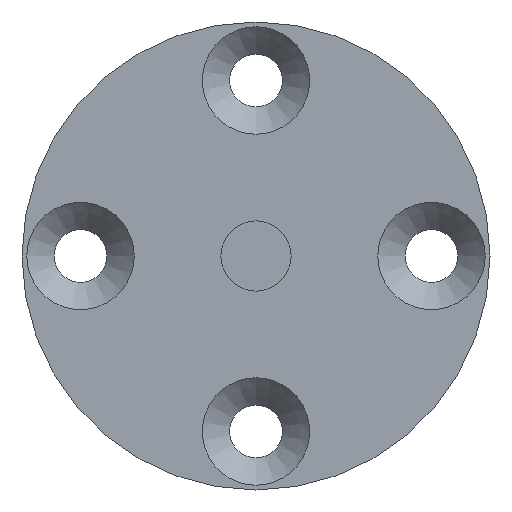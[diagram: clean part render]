
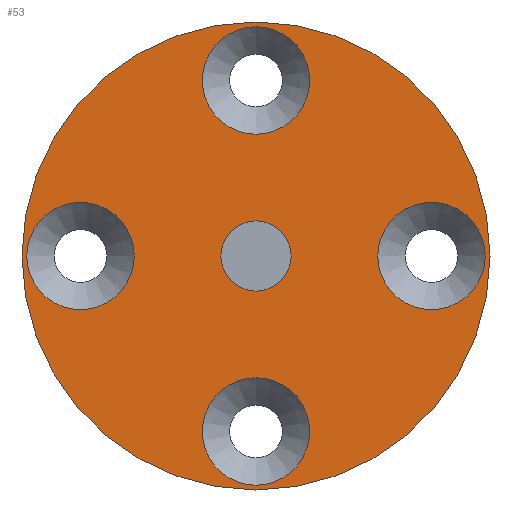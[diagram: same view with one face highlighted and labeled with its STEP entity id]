
A CAD part, front view. The second image highlights one B-rep face of the part: STEP entity #53.
In plain terms, the highlighted planar face has unit normal (0, -1, 0).
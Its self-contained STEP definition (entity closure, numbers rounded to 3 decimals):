
#48=PLANE('',#243);
#53=ADVANCED_FACE('',(#76,#77,#78,#79,#80,#81),#48,.T.);
#76=FACE_BOUND('',#110,.T.);
#77=FACE_BOUND('',#111,.T.);
#78=FACE_BOUND('',#112,.T.);
#79=FACE_BOUND('',#113,.T.);
#80=FACE_BOUND('',#114,.T.);
#81=FACE_BOUND('',#115,.T.);
#110=EDGE_LOOP('',(#146));
#111=EDGE_LOOP('',(#147));
#112=EDGE_LOOP('',(#148));
#113=EDGE_LOOP('',(#149));
#114=EDGE_LOOP('',(#150));
#115=EDGE_LOOP('',(#151));
#146=ORIENTED_EDGE('',*,*,#200,.T.);
#147=ORIENTED_EDGE('',*,*,#201,.T.);
#148=ORIENTED_EDGE('',*,*,#199,.T.);
#149=ORIENTED_EDGE('',*,*,#202,.T.);
#150=ORIENTED_EDGE('',*,*,#203,.T.);
#151=ORIENTED_EDGE('',*,*,#204,.T.);
#181=VERTEX_POINT('',#340);
#182=VERTEX_POINT('',#343);
#183=VERTEX_POINT('',#345);
#184=VERTEX_POINT('',#347);
#185=VERTEX_POINT('',#349);
#186=VERTEX_POINT('',#351);
#199=EDGE_CURVE('',#181,#181,#217,.T.);
#200=EDGE_CURVE('',#182,#182,#218,.T.);
#201=EDGE_CURVE('',#183,#183,#219,.T.);
#202=EDGE_CURVE('',#184,#184,#220,.T.);
#203=EDGE_CURVE('',#185,#185,#221,.T.);
#204=EDGE_CURVE('',#186,#186,#222,.T.);
#217=CIRCLE('',#236,20.);
#218=CIRCLE('',#238,3.);
#219=CIRCLE('',#239,4.59);
#220=CIRCLE('',#240,4.59);
#221=CIRCLE('',#241,4.59);
#222=CIRCLE('',#242,4.59);
#236=AXIS2_PLACEMENT_3D('',#339,#272,#273);
#238=AXIS2_PLACEMENT_3D('',#342,#276,#277);
#239=AXIS2_PLACEMENT_3D('',#344,#278,#279);
#240=AXIS2_PLACEMENT_3D('',#346,#280,#281);
#241=AXIS2_PLACEMENT_3D('',#348,#282,#283);
#242=AXIS2_PLACEMENT_3D('',#350,#284,#285);
#243=AXIS2_PLACEMENT_3D('',#352,#286,#287);
#272=DIRECTION('',(0.,-1.,0.));
#273=DIRECTION('',(1.,0.,0.));
#276=DIRECTION('',(0.,1.,0.));
#277=DIRECTION('',(0.,0.,-1.));
#278=DIRECTION('',(0.,1.,0.));
#279=DIRECTION('',(0.,0.,1.));
#280=DIRECTION('',(0.,1.,0.));
#281=DIRECTION('',(1.,0.,0.));
#282=DIRECTION('',(0.,1.,0.));
#283=DIRECTION('',(0.,0.,-1.));
#284=DIRECTION('',(0.,1.,0.));
#285=DIRECTION('',(-1.,0.,0.));
#286=DIRECTION('',(0.,-1.,0.));
#287=DIRECTION('',(0.,0.,-1.));
#339=CARTESIAN_POINT('',(450.,246.,402.));
#340=CARTESIAN_POINT('',(470.,246.,402.));
#342=CARTESIAN_POINT('',(450.,246.,402.));
#343=CARTESIAN_POINT('',(450.,246.,399.));
#344=CARTESIAN_POINT('',(450.,246.,417.));
#345=CARTESIAN_POINT('',(450.,246.,421.59));
#346=CARTESIAN_POINT('',(465.,246.,402.));
#347=CARTESIAN_POINT('',(469.59,246.,402.));
#348=CARTESIAN_POINT('',(450.,246.,387.));
#349=CARTESIAN_POINT('',(450.,246.,382.41));
#350=CARTESIAN_POINT('',(435.,246.,402.));
#351=CARTESIAN_POINT('',(430.41,246.,402.));
#352=CARTESIAN_POINT('',(450.,246.,402.));
